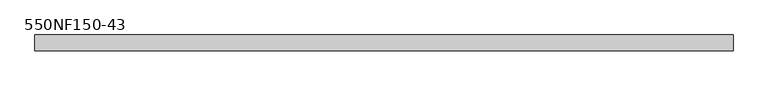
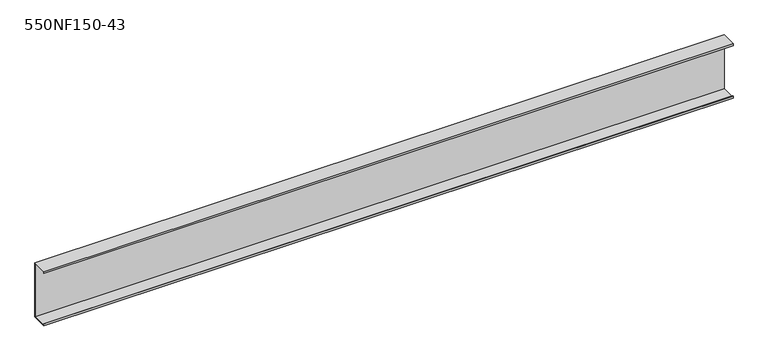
"""IFC4 building model written with IfcOpenShell, lengths in millimetres: beam geometry, BIMSF-SSMA-S : 550NF150-43."""

from ifc_helpers import new_model, si_unit, frame, origin, place, context, project, spatial, polyline, outline, extrude, source, transform, mapped, element, save


def beam_550nf150_43_3208fb24(model_context):
    return source(origin(), model_context, "Body", "SweptSolid", [
        extrude(outline(polyline([(19.05, 69.85), (19.05, -69.85), (-19.05, -69.85), (-19.05, -65.0748), (-17.9003158, -65.0748), (-17.9003158, -68.7003158), (17.9003158, -68.7003158), (17.9003158, 68.7003158), (-17.9003158, 68.7003158), (-17.9003158, 65.0748), (-19.05, 65.0748), (-19.05, 69.85), (19.05, 69.85)])), frame((-840.6708768, 0.0, 0.0), z_axis=(1.0, 0.0, 0.0), x_axis=(0.0, 1.0, 0.0)), (0.0, 0.0, 1.0), 1681.3417537),
    ])


if __name__ == "__main__":
    model = new_model("IFC4")
    model_context = context("Model", 3, world=origin())
    ifc_project = project(units=[si_unit("LENGTHUNIT", "METRE", prefix="MILLI")], contexts=[model_context])
    site = spatial("IfcSite", under=ifc_project)
    building = spatial("IfcBuilding", under=site)
    placement = place(None, origin())
    beam_550nf150_43_shape = beam_550nf150_43_3208fb24(model_context)
    element("IfcBeam", 1, ObjectType="BIMSF-SSMA-S : 550NF150-43", at=placement, inside=building, context=model_context, shape_type="MappedRepresentation", body=[
        mapped(beam_550nf150_43_shape, transform((0.0, 0.0, 0.0), x_axis=(1.0, 0.0, 0.0), y_axis=(0.0, 1.0, 0.0), z_axis=(0.0, 0.0, 1.0))),
    ])
    save(model, "model.ifc")
